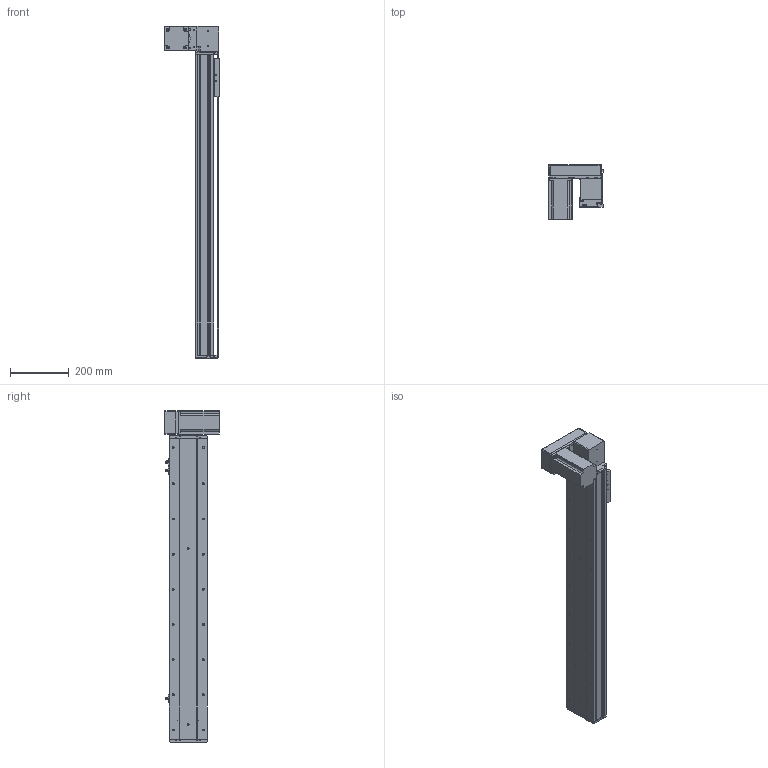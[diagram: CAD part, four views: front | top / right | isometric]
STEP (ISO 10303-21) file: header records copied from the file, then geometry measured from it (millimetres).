
FILE_DESCRIPTION (( 'STEP AP214' ), '1' );
FILE_NAME ('KSD130B-S800-MRD-CM.STEP', '2019-09-21T09:52:07', ( '微软用户' ), ( '微软中国' ), 'SwSTEP 2.0', 'SolidWorks 2014', '' );
FILE_SCHEMA (( 'AUTOMOTIVE_DESIGN' ));
Length unit declared in the file: millimetre
Products named in the file (12): KSD130B-S800-MRD-CM; 130宽模组保护罩上下左右折-同步带; 台达ECMA－C20807AS伺服电机; 130宽模组马达安装板连板上下折丝杆同步带; 覜茼え100遵圉猾敕; U倰嫖萇EEㄜSX672; 130宽盖板半封闭同步带-800行程; 130宽马达安装板同步带右-改镜向_默认<按加工>; 130宽马达安装板同步带半封闭; 130宽同步带安装座半封闭; 130宽端盖同步带半封闭; 130宽底板半封闭同步带-800行程
Assembly tree (13 placements, depth 2):
  KSD130B-S800-MRD-CM
    130宽底板半封闭同步带-800行程
    130宽端盖同步带半封闭
    130宽同步带安装座半封闭
    130宽马达安装板同步带半封闭
    130宽马达安装板同步带右-改镜向_默认<按加工>
    130宽盖板半封闭同步带-800行程
    U倰嫖萇EEㄜSX672  x3
    覜茼え100遵圉猾敕
    130宽模组马达安装板连板上下折丝杆同步带
    台达ECMA－C20807AS伺服电机
    130宽模组保护罩上下左右折-同步带
Bounding box: 186 x 184.8 x 1133 mm (x, y, z)
Volume: 4426382.1 mm3; surface area: 1191021.2 mm2
Topology: 14 solids, 14 shells, 1487 faces, 4225 edges, 2701 vertices
Faces by surface type: cylinder 706, plane 618, cone 163
Entity records: 48427 total; most frequent: CARTESIAN_POINT 8866, DIRECTION 7399, ORIENTED_EDGE 7110, EDGE_CURVE 3555, AXIS2_PLACEMENT_3D 2694, VERTEX_POINT 2325, VECTOR 2011, LINE 2011
